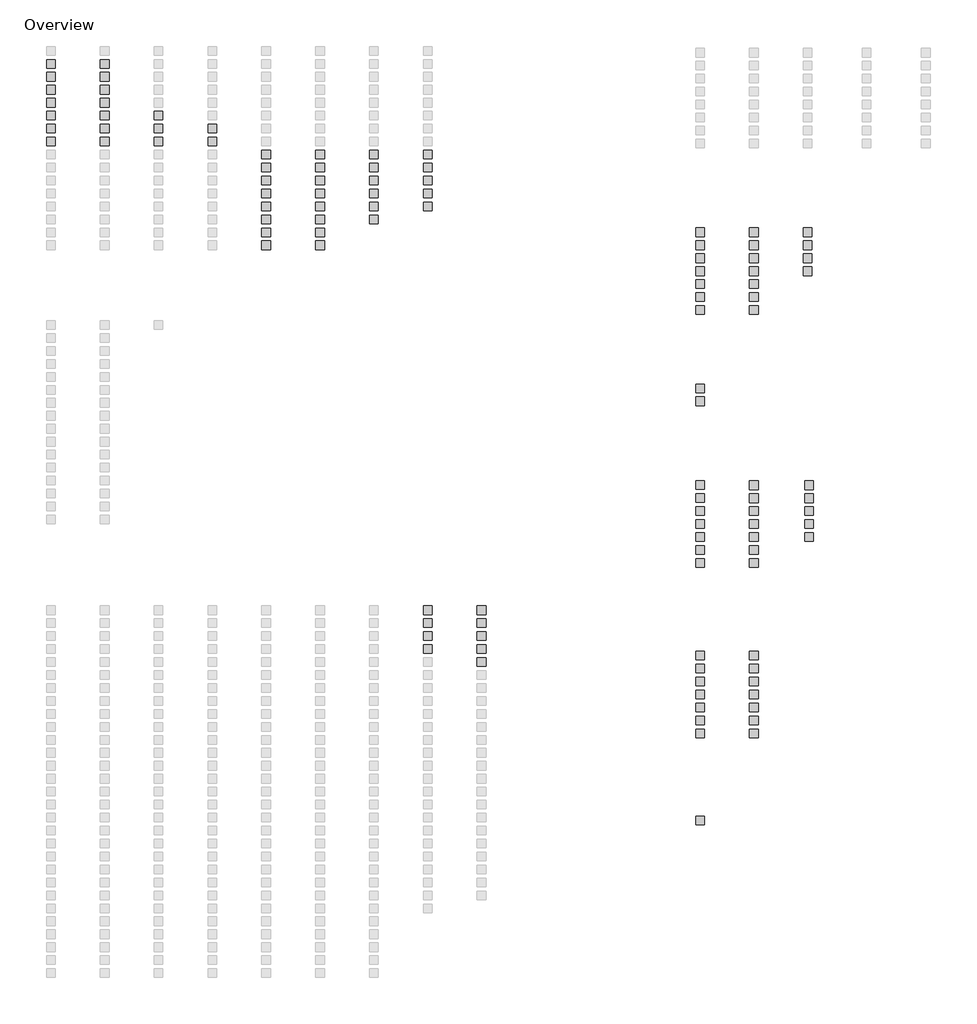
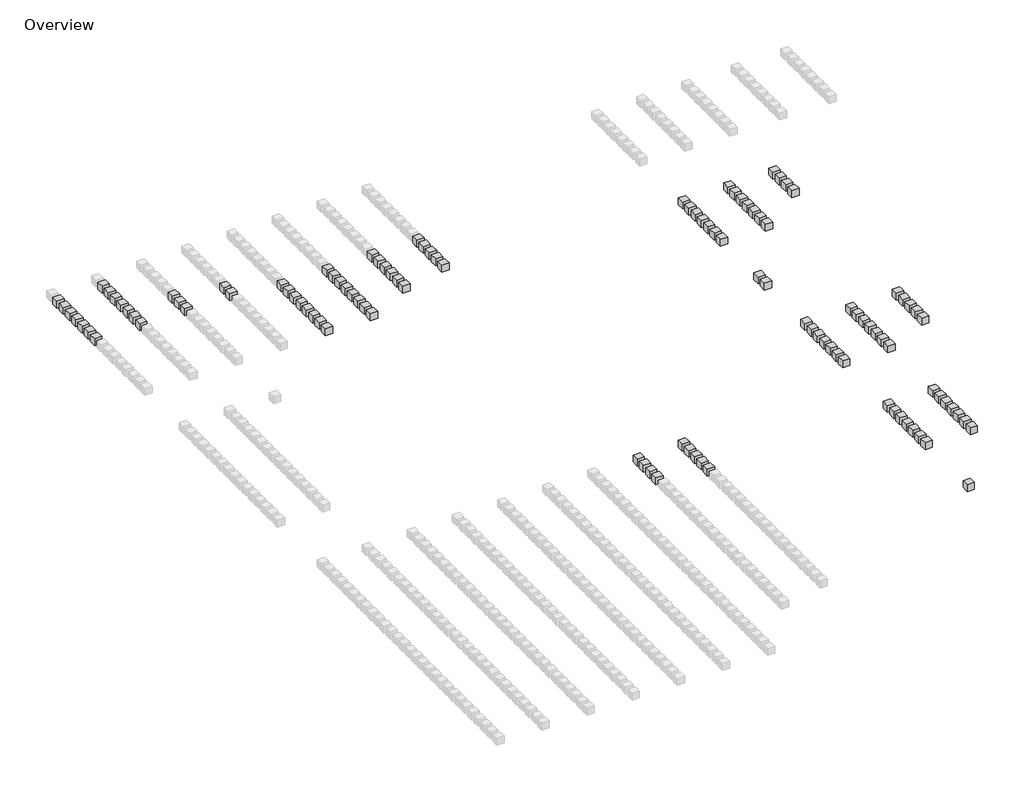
# One storey, part 4 of 5: 109 proxies.
"""IFC4 building model written with IfcOpenShell, lengths in millimetres."""

from ifc_helpers import new_model, si_unit, origin, place, context, project, spatial, transform, mapped, element, save
from components import material_box_material_box_61bd0c43

model = new_model("IFC4")

# Units and contexts
model_context = context("Model", 3, world=origin())
ifc_project = project(units=[si_unit("LENGTHUNIT", "METRE", prefix="MILLI")], contexts=[model_context])

# Site, building, storey
site = spatial("IfcSite", under=ifc_project)
building = spatial("IfcBuilding", under=site)
storey = spatial("IfcBuildingStorey", under=building, Name="Overview", Elevation=0.0)

# Proxies
placement = place(None, origin())
material_box_material_box_shape = material_box_material_box_61bd0c43(model_context)
element("IfcBuildingElementProxy", 1, Name="Material Box : Material Box", ObjectType="Material Box : Material Box", at=placement, inside=storey, context=model_context, shape_type="MappedRepresentation", body=[
    mapped(material_box_material_box_shape, transform((18647.4969971, -40200.0736223, 0.0), x_axis=(1.0, 0.0, 0.0), y_axis=(0.0, 1.0, 0.0), z_axis=(0.0, 0.0, 1.0))),
])
element("IfcBuildingElementProxy", 2, Name="Material Box : Material Box", ObjectType="Material Box : Material Box", at=placement, inside=storey, context=model_context, shape_type="MappedRepresentation", body=[
    mapped(material_box_material_box_shape, transform((18647.4969971, -41343.0736223, 0.0), x_axis=(1.0, 0.0, 0.0), y_axis=(0.0, 1.0, 0.0), z_axis=(0.0, 0.0, 1.0))),
])
element("IfcBuildingElementProxy", 3, Name="Material Box : Material Box", ObjectType="Material Box : Material Box", at=placement, inside=storey, context=model_context, shape_type="MappedRepresentation", body=[
    mapped(material_box_material_box_shape, transform((18647.4969971, -42486.0736223, 0.0), x_axis=(1.0, 0.0, 0.0), y_axis=(0.0, 1.0, 0.0), z_axis=(0.0, 0.0, 1.0))),
])
element("IfcBuildingElementProxy", 4, Name="Material Box : Material Box", ObjectType="Material Box : Material Box", at=placement, inside=storey, context=model_context, shape_type="MappedRepresentation", body=[
    mapped(material_box_material_box_shape, transform((18647.4969971, -43629.0736223, 0.0), x_axis=(1.0, 0.0, 0.0), y_axis=(0.0, 1.0, 0.0), z_axis=(0.0, 0.0, 1.0))),
])
element("IfcBuildingElementProxy", 5, Name="Material Box : Material Box", ObjectType="Material Box : Material Box", at=placement, inside=storey, context=model_context, shape_type="MappedRepresentation", body=[
    mapped(material_box_material_box_shape, transform((23397.2969971, -40200.0736223, 0.0), x_axis=(1.0, 0.0, 0.0), y_axis=(0.0, 1.0, 0.0), z_axis=(0.0, 0.0, 1.0))),
])
element("IfcBuildingElementProxy", 6, Name="Material Box : Material Box", ObjectType="Material Box : Material Box", at=placement, inside=storey, context=model_context, shape_type="MappedRepresentation", body=[
    mapped(material_box_material_box_shape, transform((23397.2969971, -41343.0736223, 0.0), x_axis=(1.0, 0.0, 0.0), y_axis=(0.0, 1.0, 0.0), z_axis=(0.0, 0.0, 1.0))),
])
element("IfcBuildingElementProxy", 7, Name="Material Box : Material Box", ObjectType="Material Box : Material Box", at=placement, inside=storey, context=model_context, shape_type="MappedRepresentation", body=[
    mapped(material_box_material_box_shape, transform((23397.2969971, -42486.0736223, 0.0), x_axis=(1.0, 0.0, 0.0), y_axis=(0.0, 1.0, 0.0), z_axis=(0.0, 0.0, 1.0))),
])
element("IfcBuildingElementProxy", 8, Name="Material Box : Material Box", ObjectType="Material Box : Material Box", at=placement, inside=storey, context=model_context, shape_type="MappedRepresentation", body=[
    mapped(material_box_material_box_shape, transform((23397.2969971, -43629.0736223, 0.0), x_axis=(1.0, 0.0, 0.0), y_axis=(0.0, 1.0, 0.0), z_axis=(0.0, 0.0, 1.0))),
])
element("IfcBuildingElementProxy", 9, Name="Material Box : Material Box", ObjectType="Material Box : Material Box", at=placement, inside=storey, context=model_context, shape_type="MappedRepresentation", body=[
    mapped(material_box_material_box_shape, transform((23397.2969971, -44772.0736223, 0.0), x_axis=(1.0, 0.0, 0.0), y_axis=(0.0, 1.0, 0.0), z_axis=(0.0, 0.0, 1.0))),
])
element("IfcBuildingElementProxy", 10, Name="Material Box : Material Box", ObjectType="Material Box : Material Box", at=placement, inside=storey, context=model_context, shape_type="MappedRepresentation", body=[
    mapped(material_box_material_box_shape, transform((42673.1200034, -6876.352486, 0.0), x_axis=(1.0, 0.0, 0.0), y_axis=(0.0, 1.0, 0.0), z_axis=(0.0, 0.0, 1.0))),
])
element("IfcBuildingElementProxy", 11, Name="Material Box : Material Box", ObjectType="Material Box : Material Box", at=placement, inside=storey, context=model_context, shape_type="MappedRepresentation", body=[
    mapped(material_box_material_box_shape, transform((42673.1200034, -8019.352486, 0.0), x_axis=(1.0, 0.0, 0.0), y_axis=(0.0, 1.0, 0.0), z_axis=(0.0, 0.0, 1.0))),
])
element("IfcBuildingElementProxy", 12, Name="Material Box : Material Box", ObjectType="Material Box : Material Box", at=placement, inside=storey, context=model_context, shape_type="MappedRepresentation", body=[
    mapped(material_box_material_box_shape, transform((42673.1200034, -9162.352486, 0.0), x_axis=(1.0, 0.0, 0.0), y_axis=(0.0, 1.0, 0.0), z_axis=(0.0, 0.0, 1.0))),
])
element("IfcBuildingElementProxy", 13, Name="Material Box : Material Box", ObjectType="Material Box : Material Box", at=placement, inside=storey, context=model_context, shape_type="MappedRepresentation", body=[
    mapped(material_box_material_box_shape, transform((42673.1200034, -10305.352486, 0.0), x_axis=(1.0, 0.0, 0.0), y_axis=(0.0, 1.0, 0.0), z_axis=(0.0, 0.0, 1.0))),
])
element("IfcBuildingElementProxy", 14, Name="Material Box : Material Box", ObjectType="Material Box : Material Box", at=placement, inside=storey, context=model_context, shape_type="MappedRepresentation", body=[
    mapped(material_box_material_box_shape, transform((42673.1200034, -12591.352486, 0.0), x_axis=(1.0, 0.0, 0.0), y_axis=(0.0, 1.0, 0.0), z_axis=(0.0, 0.0, 1.0))),
])
element("IfcBuildingElementProxy", 15, Name="Material Box : Material Box", ObjectType="Material Box : Material Box", at=placement, inside=storey, context=model_context, shape_type="MappedRepresentation", body=[
    mapped(material_box_material_box_shape, transform((42673.1200034, -13734.352486, 0.0), x_axis=(1.0, 0.0, 0.0), y_axis=(0.0, 1.0, 0.0), z_axis=(0.0, 0.0, 1.0))),
])
element("IfcBuildingElementProxy", 16, Name="Material Box : Material Box", ObjectType="Material Box : Material Box", at=placement, inside=storey, context=model_context, shape_type="MappedRepresentation", body=[
    mapped(material_box_material_box_shape, transform((47425.8828924, -6876.352486, 0.0), x_axis=(1.0, 0.0, 0.0), y_axis=(0.0, 1.0, 0.0), z_axis=(0.0, 0.0, 1.0))),
])
element("IfcBuildingElementProxy", 17, Name="Material Box : Material Box", ObjectType="Material Box : Material Box", at=placement, inside=storey, context=model_context, shape_type="MappedRepresentation", body=[
    mapped(material_box_material_box_shape, transform((47425.8828924, -8019.352486, 0.0), x_axis=(1.0, 0.0, 0.0), y_axis=(0.0, 1.0, 0.0), z_axis=(0.0, 0.0, 1.0))),
])
element("IfcBuildingElementProxy", 18, Name="Material Box : Material Box", ObjectType="Material Box : Material Box", at=placement, inside=storey, context=model_context, shape_type="MappedRepresentation", body=[
    mapped(material_box_material_box_shape, transform((47425.8828924, -10305.352486, 0.0), x_axis=(1.0, 0.0, 0.0), y_axis=(0.0, 1.0, 0.0), z_axis=(0.0, 0.0, 1.0))),
])
element("IfcBuildingElementProxy", 19, Name="Material Box : Material Box", ObjectType="Material Box : Material Box", at=placement, inside=storey, context=model_context, shape_type="MappedRepresentation", body=[
    mapped(material_box_material_box_shape, transform((47425.8828924, -11448.352486, 0.0), x_axis=(1.0, 0.0, 0.0), y_axis=(0.0, 1.0, 0.0), z_axis=(0.0, 0.0, 1.0))),
])
element("IfcBuildingElementProxy", 20, Name="Material Box : Material Box", ObjectType="Material Box : Material Box", at=placement, inside=storey, context=model_context, shape_type="MappedRepresentation", body=[
    mapped(material_box_material_box_shape, transform((47425.8828924, -12591.352486, 0.0), x_axis=(1.0, 0.0, 0.0), y_axis=(0.0, 1.0, 0.0), z_axis=(0.0, 0.0, 1.0))),
])
element("IfcBuildingElementProxy", 21, Name="Material Box : Material Box", ObjectType="Material Box : Material Box", at=placement, inside=storey, context=model_context, shape_type="MappedRepresentation", body=[
    mapped(material_box_material_box_shape, transform((47425.8828924, -13734.352486, 0.0), x_axis=(1.0, 0.0, 0.0), y_axis=(0.0, 1.0, 0.0), z_axis=(0.0, 0.0, 1.0))),
])
element("IfcBuildingElementProxy", 22, Name="Material Box : Material Box", ObjectType="Material Box : Material Box", at=placement, inside=storey, context=model_context, shape_type="MappedRepresentation", body=[
    mapped(material_box_material_box_shape, transform((42673.1200034, -11448.352486, 0.0), x_axis=(1.0, 0.0, 0.0), y_axis=(0.0, 1.0, 0.0), z_axis=(0.0, 0.0, 1.0))),
])
element("IfcBuildingElementProxy", 23, Name="Material Box : Material Box", ObjectType="Material Box : Material Box", at=placement, inside=storey, context=model_context, shape_type="MappedRepresentation", body=[
    mapped(material_box_material_box_shape, transform((47425.8828924, -9162.352486, 0.0), x_axis=(1.0, 0.0, 0.0), y_axis=(0.0, 1.0, 0.0), z_axis=(0.0, 0.0, 1.0))),
])
element("IfcBuildingElementProxy", 24, Name="Material Box : Material Box", ObjectType="Material Box : Material Box", at=placement, inside=storey, context=model_context, shape_type="MappedRepresentation", body=[
    mapped(material_box_material_box_shape, transform((42673.1200034, -20633.9300308, 0.0), x_axis=(1.0, 0.0, 0.0), y_axis=(0.0, 1.0, 0.0), z_axis=(0.0, 0.0, 1.0))),
])
element("IfcBuildingElementProxy", 25, Name="Material Box : Material Box", ObjectType="Material Box : Material Box", at=placement, inside=storey, context=model_context, shape_type="MappedRepresentation", body=[
    mapped(material_box_material_box_shape, transform((42673.1200034, -21776.9300308, 0.0), x_axis=(1.0, 0.0, 0.0), y_axis=(0.0, 1.0, 0.0), z_axis=(0.0, 0.0, 1.0))),
])
element("IfcBuildingElementProxy", 26, Name="Material Box : Material Box", ObjectType="Material Box : Material Box", at=placement, inside=storey, context=model_context, shape_type="MappedRepresentation", body=[
    mapped(material_box_material_box_shape, transform((42673.1200034, -29167.0854801, 0.0), x_axis=(1.0, 0.0, 0.0), y_axis=(0.0, 1.0, 0.0), z_axis=(0.0, 0.0, 1.0))),
])
element("IfcBuildingElementProxy", 27, Name="Material Box : Material Box", ObjectType="Material Box : Material Box", at=placement, inside=storey, context=model_context, shape_type="MappedRepresentation", body=[
    mapped(material_box_material_box_shape, transform((42673.1200034, -30310.0854801, 0.0), x_axis=(1.0, 0.0, 0.0), y_axis=(0.0, 1.0, 0.0), z_axis=(0.0, 0.0, 1.0))),
])
element("IfcBuildingElementProxy", 28, Name="Material Box : Material Box", ObjectType="Material Box : Material Box", at=placement, inside=storey, context=model_context, shape_type="MappedRepresentation", body=[
    mapped(material_box_material_box_shape, transform((42673.1200034, -31453.0854801, 0.0), x_axis=(1.0, 0.0, 0.0), y_axis=(0.0, 1.0, 0.0), z_axis=(0.0, 0.0, 1.0))),
])
element("IfcBuildingElementProxy", 29, Name="Material Box : Material Box", ObjectType="Material Box : Material Box", at=placement, inside=storey, context=model_context, shape_type="MappedRepresentation", body=[
    mapped(material_box_material_box_shape, transform((42673.1200034, -32596.0854801, 0.0), x_axis=(1.0, 0.0, 0.0), y_axis=(0.0, 1.0, 0.0), z_axis=(0.0, 0.0, 1.0))),
])
element("IfcBuildingElementProxy", 30, Name="Material Box : Material Box", ObjectType="Material Box : Material Box", at=placement, inside=storey, context=model_context, shape_type="MappedRepresentation", body=[
    mapped(material_box_material_box_shape, transform((42673.1200034, -34882.0854801, 0.0), x_axis=(1.0, 0.0, 0.0), y_axis=(0.0, 1.0, 0.0), z_axis=(0.0, 0.0, 1.0))),
])
element("IfcBuildingElementProxy", 31, Name="Material Box : Material Box", ObjectType="Material Box : Material Box", at=placement, inside=storey, context=model_context, shape_type="MappedRepresentation", body=[
    mapped(material_box_material_box_shape, transform((42673.1200034, -36025.0854801, 0.0), x_axis=(1.0, 0.0, 0.0), y_axis=(0.0, 1.0, 0.0), z_axis=(0.0, 0.0, 1.0))),
])
element("IfcBuildingElementProxy", 32, Name="Material Box : Material Box", ObjectType="Material Box : Material Box", at=placement, inside=storey, context=model_context, shape_type="MappedRepresentation", body=[
    mapped(material_box_material_box_shape, transform((47425.8828924, -29178.4041009, 0.0), x_axis=(1.0, 0.0, 0.0), y_axis=(0.0, 1.0, 0.0), z_axis=(0.0, 0.0, 1.0))),
])
element("IfcBuildingElementProxy", 33, Name="Material Box : Material Box", ObjectType="Material Box : Material Box", at=placement, inside=storey, context=model_context, shape_type="MappedRepresentation", body=[
    mapped(material_box_material_box_shape, transform((47425.8828924, -30321.4041009, 0.0), x_axis=(1.0, 0.0, 0.0), y_axis=(0.0, 1.0, 0.0), z_axis=(0.0, 0.0, 1.0))),
])
element("IfcBuildingElementProxy", 34, Name="Material Box : Material Box", ObjectType="Material Box : Material Box", at=placement, inside=storey, context=model_context, shape_type="MappedRepresentation", body=[
    mapped(material_box_material_box_shape, transform((47425.8828924, -32607.4041009, 0.0), x_axis=(1.0, 0.0, 0.0), y_axis=(0.0, 1.0, 0.0), z_axis=(0.0, 0.0, 1.0))),
])
element("IfcBuildingElementProxy", 35, Name="Material Box : Material Box", ObjectType="Material Box : Material Box", at=placement, inside=storey, context=model_context, shape_type="MappedRepresentation", body=[
    mapped(material_box_material_box_shape, transform((47425.8828924, -33750.4041009, 0.0), x_axis=(1.0, 0.0, 0.0), y_axis=(0.0, 1.0, 0.0), z_axis=(0.0, 0.0, 1.0))),
])
element("IfcBuildingElementProxy", 36, Name="Material Box : Material Box", ObjectType="Material Box : Material Box", at=placement, inside=storey, context=model_context, shape_type="MappedRepresentation", body=[
    mapped(material_box_material_box_shape, transform((47425.8828924, -49924.1260586, 0.0), x_axis=(1.0, 0.0, 0.0), y_axis=(0.0, 1.0, 0.0), z_axis=(0.0, 0.0, 1.0))),
])
element("IfcBuildingElementProxy", 37, Name="Material Box : Material Box", ObjectType="Material Box : Material Box", at=placement, inside=storey, context=model_context, shape_type="MappedRepresentation", body=[
    mapped(material_box_material_box_shape, transform((47425.8828924, -34893.4041009, 0.0), x_axis=(1.0, 0.0, 0.0), y_axis=(0.0, 1.0, 0.0), z_axis=(0.0, 0.0, 1.0))),
])
element("IfcBuildingElementProxy", 38, Name="Material Box : Material Box", ObjectType="Material Box : Material Box", at=placement, inside=storey, context=model_context, shape_type="MappedRepresentation", body=[
    mapped(material_box_material_box_shape, transform((47425.8828924, -51067.1260586, 0.0), x_axis=(1.0, 0.0, 0.0), y_axis=(0.0, 1.0, 0.0), z_axis=(0.0, 0.0, 1.0))),
])
element("IfcBuildingElementProxy", 39, Name="Material Box : Material Box", ObjectType="Material Box : Material Box", at=placement, inside=storey, context=model_context, shape_type="MappedRepresentation", body=[
    mapped(material_box_material_box_shape, transform((47425.8828924, -36036.4041009, 0.0), x_axis=(1.0, 0.0, 0.0), y_axis=(0.0, 1.0, 0.0), z_axis=(0.0, 0.0, 1.0))),
])
element("IfcBuildingElementProxy", 40, Name="Material Box : Material Box", ObjectType="Material Box : Material Box", at=placement, inside=storey, context=model_context, shape_type="MappedRepresentation", body=[
    mapped(material_box_material_box_shape, transform((42673.1200034, -51067.1260586, 0.0), x_axis=(1.0, 0.0, 0.0), y_axis=(0.0, 1.0, 0.0), z_axis=(0.0, 0.0, 1.0))),
])
element("IfcBuildingElementProxy", 41, Name="Material Box : Material Box", ObjectType="Material Box : Material Box", at=placement, inside=storey, context=model_context, shape_type="MappedRepresentation", body=[
    mapped(material_box_material_box_shape, transform((42673.1200034, -33739.0854801, 0.0), x_axis=(1.0, 0.0, 0.0), y_axis=(0.0, 1.0, 0.0), z_axis=(0.0, 0.0, 1.0))),
])
element("IfcBuildingElementProxy", 42, Name="Material Box : Material Box", ObjectType="Material Box : Material Box", at=placement, inside=storey, context=model_context, shape_type="MappedRepresentation", body=[
    mapped(material_box_material_box_shape, transform((47425.8828924, -31464.4041009, 0.0), x_axis=(1.0, 0.0, 0.0), y_axis=(0.0, 1.0, 0.0), z_axis=(0.0, 0.0, 1.0))),
])
element("IfcBuildingElementProxy", 43, Name="Material Box : Material Box", ObjectType="Material Box : Material Box", at=placement, inside=storey, context=model_context, shape_type="MappedRepresentation", body=[
    mapped(material_box_material_box_shape, transform((42673.1200034, -44209.1260586, 0.0), x_axis=(1.0, 0.0, 0.0), y_axis=(0.0, 1.0, 0.0), z_axis=(0.0, 0.0, 1.0))),
])
element("IfcBuildingElementProxy", 44, Name="Material Box : Material Box", ObjectType="Material Box : Material Box", at=placement, inside=storey, context=model_context, shape_type="MappedRepresentation", body=[
    mapped(material_box_material_box_shape, transform((42673.1200034, -45352.1260586, 0.0), x_axis=(1.0, 0.0, 0.0), y_axis=(0.0, 1.0, 0.0), z_axis=(0.0, 0.0, 1.0))),
])
element("IfcBuildingElementProxy", 45, Name="Material Box : Material Box", ObjectType="Material Box : Material Box", at=placement, inside=storey, context=model_context, shape_type="MappedRepresentation", body=[
    mapped(material_box_material_box_shape, transform((42673.1200034, -46495.1260586, 0.0), x_axis=(1.0, 0.0, 0.0), y_axis=(0.0, 1.0, 0.0), z_axis=(0.0, 0.0, 1.0))),
])
element("IfcBuildingElementProxy", 46, Name="Material Box : Material Box", ObjectType="Material Box : Material Box", at=placement, inside=storey, context=model_context, shape_type="MappedRepresentation", body=[
    mapped(material_box_material_box_shape, transform((42673.1200034, -47638.1260586, 0.0), x_axis=(1.0, 0.0, 0.0), y_axis=(0.0, 1.0, 0.0), z_axis=(0.0, 0.0, 1.0))),
])
element("IfcBuildingElementProxy", 47, Name="Material Box : Material Box", ObjectType="Material Box : Material Box", at=placement, inside=storey, context=model_context, shape_type="MappedRepresentation", body=[
    mapped(material_box_material_box_shape, transform((42673.1200034, -49924.1260586, 0.0), x_axis=(1.0, 0.0, 0.0), y_axis=(0.0, 1.0, 0.0), z_axis=(0.0, 0.0, 1.0))),
])
element("IfcBuildingElementProxy", 48, Name="Material Box : Material Box", ObjectType="Material Box : Material Box", at=placement, inside=storey, context=model_context, shape_type="MappedRepresentation", body=[
    mapped(material_box_material_box_shape, transform((47425.8828924, -44209.1260586, 0.0), x_axis=(1.0, 0.0, 0.0), y_axis=(0.0, 1.0, 0.0), z_axis=(0.0, 0.0, 1.0))),
])
element("IfcBuildingElementProxy", 49, Name="Material Box : Material Box", ObjectType="Material Box : Material Box", at=placement, inside=storey, context=model_context, shape_type="MappedRepresentation", body=[
    mapped(material_box_material_box_shape, transform((47425.8828924, -45352.1260586, 0.0), x_axis=(1.0, 0.0, 0.0), y_axis=(0.0, 1.0, 0.0), z_axis=(0.0, 0.0, 1.0))),
])
element("IfcBuildingElementProxy", 50, Name="Material Box : Material Box", ObjectType="Material Box : Material Box", at=placement, inside=storey, context=model_context, shape_type="MappedRepresentation", body=[
    mapped(material_box_material_box_shape, transform((47425.8828924, -46495.1260586, 0.0), x_axis=(1.0, 0.0, 0.0), y_axis=(0.0, 1.0, 0.0), z_axis=(0.0, 0.0, 1.0))),
])
element("IfcBuildingElementProxy", 51, Name="Material Box : Material Box", ObjectType="Material Box : Material Box", at=placement, inside=storey, context=model_context, shape_type="MappedRepresentation", body=[
    mapped(material_box_material_box_shape, transform((47425.8828924, -48781.1260586, 0.0), x_axis=(1.0, 0.0, 0.0), y_axis=(0.0, 1.0, 0.0), z_axis=(0.0, 0.0, 1.0))),
])
element("IfcBuildingElementProxy", 52, Name="Material Box : Material Box", ObjectType="Material Box : Material Box", at=placement, inside=storey, context=model_context, shape_type="MappedRepresentation", body=[
    mapped(material_box_material_box_shape, transform((42673.1200034, -48781.1260586, 0.0), x_axis=(1.0, 0.0, 0.0), y_axis=(0.0, 1.0, 0.0), z_axis=(0.0, 0.0, 1.0))),
])
element("IfcBuildingElementProxy", 53, Name="Material Box : Material Box", ObjectType="Material Box : Material Box", at=placement, inside=storey, context=model_context, shape_type="MappedRepresentation", body=[
    mapped(material_box_material_box_shape, transform((47425.8828924, -47638.1260586, 0.0), x_axis=(1.0, 0.0, 0.0), y_axis=(0.0, 1.0, 0.0), z_axis=(0.0, 0.0, 1.0))),
])
element("IfcBuildingElementProxy", 54, Name="Material Box : Material Box", ObjectType="Material Box : Material Box", at=placement, inside=storey, context=model_context, shape_type="MappedRepresentation", body=[
    mapped(material_box_material_box_shape, transform((-14601.1030029, 7981.2048122, 0.0), x_axis=(1.0, 0.0, 0.0), y_axis=(0.0, 1.0, 0.0), z_axis=(0.0, 0.0, 1.0))),
])
element("IfcBuildingElementProxy", 55, Name="Material Box : Material Box", ObjectType="Material Box : Material Box", at=placement, inside=storey, context=model_context, shape_type="MappedRepresentation", body=[
    mapped(material_box_material_box_shape, transform((-14601.1030029, 6838.2048122, 0.0), x_axis=(1.0, 0.0, 0.0), y_axis=(0.0, 1.0, 0.0), z_axis=(0.0, 0.0, 1.0))),
])
element("IfcBuildingElementProxy", 56, Name="Material Box : Material Box", ObjectType="Material Box : Material Box", at=placement, inside=storey, context=model_context, shape_type="MappedRepresentation", body=[
    mapped(material_box_material_box_shape, transform((-14601.1030029, 5695.2048122, 0.0), x_axis=(1.0, 0.0, 0.0), y_axis=(0.0, 1.0, 0.0), z_axis=(0.0, 0.0, 1.0))),
])
element("IfcBuildingElementProxy", 57, Name="Material Box : Material Box", ObjectType="Material Box : Material Box", at=placement, inside=storey, context=model_context, shape_type="MappedRepresentation", body=[
    mapped(material_box_material_box_shape, transform((-9851.3030029, 7981.2048122, 0.0), x_axis=(1.0, 0.0, 0.0), y_axis=(0.0, 1.0, 0.0), z_axis=(0.0, 0.0, 1.0))),
])
element("IfcBuildingElementProxy", 58, Name="Material Box : Material Box", ObjectType="Material Box : Material Box", at=placement, inside=storey, context=model_context, shape_type="MappedRepresentation", body=[
    mapped(material_box_material_box_shape, transform((-9851.3030029, 6838.2048122, 0.0), x_axis=(1.0, 0.0, 0.0), y_axis=(0.0, 1.0, 0.0), z_axis=(0.0, 0.0, 1.0))),
])
element("IfcBuildingElementProxy", 59, Name="Material Box : Material Box", ObjectType="Material Box : Material Box", at=placement, inside=storey, context=model_context, shape_type="MappedRepresentation", body=[
    mapped(material_box_material_box_shape, transform((-14601.1030029, 3409.2048122, 0.0), x_axis=(1.0, 0.0, 0.0), y_axis=(0.0, 1.0, 0.0), z_axis=(0.0, 0.0, 1.0))),
])
element("IfcBuildingElementProxy", 60, Name="Material Box : Material Box", ObjectType="Material Box : Material Box", at=placement, inside=storey, context=model_context, shape_type="MappedRepresentation", body=[
    mapped(material_box_material_box_shape, transform((-14601.1030029, 2266.2048122, 0.0), x_axis=(1.0, 0.0, 0.0), y_axis=(0.0, 1.0, 0.0), z_axis=(0.0, 0.0, 1.0))),
])
element("IfcBuildingElementProxy", 61, Name="Material Box : Material Box", ObjectType="Material Box : Material Box", at=placement, inside=storey, context=model_context, shape_type="MappedRepresentation", body=[
    mapped(material_box_material_box_shape, transform((-14601.1030029, 1123.2048122, 0.0), x_axis=(1.0, 0.0, 0.0), y_axis=(0.0, 1.0, 0.0), z_axis=(0.0, 0.0, 1.0))),
])
element("IfcBuildingElementProxy", 62, Name="Material Box : Material Box", ObjectType="Material Box : Material Box", at=placement, inside=storey, context=model_context, shape_type="MappedRepresentation", body=[
    mapped(material_box_material_box_shape, transform((-9851.3030029, 5695.2048122, 0.0), x_axis=(1.0, 0.0, 0.0), y_axis=(0.0, 1.0, 0.0), z_axis=(0.0, 0.0, 1.0))),
])
element("IfcBuildingElementProxy", 63, Name="Material Box : Material Box", ObjectType="Material Box : Material Box", at=placement, inside=storey, context=model_context, shape_type="MappedRepresentation", body=[
    mapped(material_box_material_box_shape, transform((-9851.3030029, 4552.2048122, 0.0), x_axis=(1.0, 0.0, 0.0), y_axis=(0.0, 1.0, 0.0), z_axis=(0.0, 0.0, 1.0))),
])
element("IfcBuildingElementProxy", 64, Name="Material Box : Material Box", ObjectType="Material Box : Material Box", at=placement, inside=storey, context=model_context, shape_type="MappedRepresentation", body=[
    mapped(material_box_material_box_shape, transform((-14601.1030029, 4552.2048122, 0.0), x_axis=(1.0, 0.0, 0.0), y_axis=(0.0, 1.0, 0.0), z_axis=(0.0, 0.0, 1.0))),
])
element("IfcBuildingElementProxy", 65, Name="Material Box : Material Box", ObjectType="Material Box : Material Box", at=placement, inside=storey, context=model_context, shape_type="MappedRepresentation", body=[
    mapped(material_box_material_box_shape, transform((-9851.3030029, 3409.2048122, 0.0), x_axis=(1.0, 0.0, 0.0), y_axis=(0.0, 1.0, 0.0), z_axis=(0.0, 0.0, 1.0))),
])
element("IfcBuildingElementProxy", 66, Name="Material Box : Material Box", ObjectType="Material Box : Material Box", at=placement, inside=storey, context=model_context, shape_type="MappedRepresentation", body=[
    mapped(material_box_material_box_shape, transform((-9851.3030029, 2266.2048122, 0.0), x_axis=(1.0, 0.0, 0.0), y_axis=(0.0, 1.0, 0.0), z_axis=(0.0, 0.0, 1.0))),
])
element("IfcBuildingElementProxy", 67, Name="Material Box : Material Box", ObjectType="Material Box : Material Box", at=placement, inside=storey, context=model_context, shape_type="MappedRepresentation", body=[
    mapped(material_box_material_box_shape, transform((-9851.3030029, 1123.2048122, 0.0), x_axis=(1.0, 0.0, 0.0), y_axis=(0.0, 1.0, 0.0), z_axis=(0.0, 0.0, 1.0))),
])
element("IfcBuildingElementProxy", 68, Name="Material Box : Material Box", ObjectType="Material Box : Material Box", at=placement, inside=storey, context=model_context, shape_type="MappedRepresentation", body=[
    mapped(material_box_material_box_shape, transform((-5101.5030029, 3409.2048122, 0.0), x_axis=(1.0, 0.0, 0.0), y_axis=(0.0, 1.0, 0.0), z_axis=(0.0, 0.0, 1.0))),
])
element("IfcBuildingElementProxy", 69, Name="Material Box : Material Box", ObjectType="Material Box : Material Box", at=placement, inside=storey, context=model_context, shape_type="MappedRepresentation", body=[
    mapped(material_box_material_box_shape, transform((-5101.5030029, 2266.2048122, 0.0), x_axis=(1.0, 0.0, 0.0), y_axis=(0.0, 1.0, 0.0), z_axis=(0.0, 0.0, 1.0))),
])
element("IfcBuildingElementProxy", 70, Name="Material Box : Material Box", ObjectType="Material Box : Material Box", at=placement, inside=storey, context=model_context, shape_type="MappedRepresentation", body=[
    mapped(material_box_material_box_shape, transform((-5101.5030029, 1123.2048122, 0.0), x_axis=(1.0, 0.0, 0.0), y_axis=(0.0, 1.0, 0.0), z_axis=(0.0, 0.0, 1.0))),
])
element("IfcBuildingElementProxy", 71, Name="Material Box : Material Box", ObjectType="Material Box : Material Box", at=placement, inside=storey, context=model_context, shape_type="MappedRepresentation", body=[
    mapped(material_box_material_box_shape, transform((-351.7030029, 2266.2048122, 0.0), x_axis=(1.0, 0.0, 0.0), y_axis=(0.0, 1.0, 0.0), z_axis=(0.0, 0.0, 1.0))),
])
element("IfcBuildingElementProxy", 72, Name="Material Box : Material Box", ObjectType="Material Box : Material Box", at=placement, inside=storey, context=model_context, shape_type="MappedRepresentation", body=[
    mapped(material_box_material_box_shape, transform((-351.7030029, 1123.2048122, 0.0), x_axis=(1.0, 0.0, 0.0), y_axis=(0.0, 1.0, 0.0), z_axis=(0.0, 0.0, 1.0))),
])
element("IfcBuildingElementProxy", 73, Name="Material Box : Material Box", ObjectType="Material Box : Material Box", at=placement, inside=storey, context=model_context, shape_type="MappedRepresentation", body=[
    mapped(material_box_material_box_shape, transform((4398.0969971, -19.7951878, 0.0), x_axis=(1.0, 0.0, 0.0), y_axis=(0.0, 1.0, 0.0), z_axis=(0.0, 0.0, 1.0))),
])
element("IfcBuildingElementProxy", 74, Name="Material Box : Material Box", ObjectType="Material Box : Material Box", at=placement, inside=storey, context=model_context, shape_type="MappedRepresentation", body=[
    mapped(material_box_material_box_shape, transform((4398.0969971, -1162.7951878, 0.0), x_axis=(1.0, 0.0, 0.0), y_axis=(0.0, 1.0, 0.0), z_axis=(0.0, 0.0, 1.0))),
])
element("IfcBuildingElementProxy", 75, Name="Material Box : Material Box", ObjectType="Material Box : Material Box", at=placement, inside=storey, context=model_context, shape_type="MappedRepresentation", body=[
    mapped(material_box_material_box_shape, transform((4398.0969971, -4591.7951878, 0.0), x_axis=(1.0, 0.0, 0.0), y_axis=(0.0, 1.0, 0.0), z_axis=(0.0, 0.0, 1.0))),
])
element("IfcBuildingElementProxy", 76, Name="Material Box : Material Box", ObjectType="Material Box : Material Box", at=placement, inside=storey, context=model_context, shape_type="MappedRepresentation", body=[
    mapped(material_box_material_box_shape, transform((4398.0969971, -5734.7951878, 0.0), x_axis=(1.0, 0.0, 0.0), y_axis=(0.0, 1.0, 0.0), z_axis=(0.0, 0.0, 1.0))),
])
element("IfcBuildingElementProxy", 77, Name="Material Box : Material Box", ObjectType="Material Box : Material Box", at=placement, inside=storey, context=model_context, shape_type="MappedRepresentation", body=[
    mapped(material_box_material_box_shape, transform((4398.0969971, -6877.7951878, 0.0), x_axis=(1.0, 0.0, 0.0), y_axis=(0.0, 1.0, 0.0), z_axis=(0.0, 0.0, 1.0))),
])
element("IfcBuildingElementProxy", 78, Name="Material Box : Material Box", ObjectType="Material Box : Material Box", at=placement, inside=storey, context=model_context, shape_type="MappedRepresentation", body=[
    mapped(material_box_material_box_shape, transform((4398.0969971, -8020.7951878, 0.0), x_axis=(1.0, 0.0, 0.0), y_axis=(0.0, 1.0, 0.0), z_axis=(0.0, 0.0, 1.0))),
])
element("IfcBuildingElementProxy", 79, Name="Material Box : Material Box", ObjectType="Material Box : Material Box", at=placement, inside=storey, context=model_context, shape_type="MappedRepresentation", body=[
    mapped(material_box_material_box_shape, transform((9147.8969971, -19.7951878, 0.0), x_axis=(1.0, 0.0, 0.0), y_axis=(0.0, 1.0, 0.0), z_axis=(0.0, 0.0, 1.0))),
])
element("IfcBuildingElementProxy", 80, Name="Material Box : Material Box", ObjectType="Material Box : Material Box", at=placement, inside=storey, context=model_context, shape_type="MappedRepresentation", body=[
    mapped(material_box_material_box_shape, transform((9147.8969971, -1162.7951878, 0.0), x_axis=(1.0, 0.0, 0.0), y_axis=(0.0, 1.0, 0.0), z_axis=(0.0, 0.0, 1.0))),
])
element("IfcBuildingElementProxy", 81, Name="Material Box : Material Box", ObjectType="Material Box : Material Box", at=placement, inside=storey, context=model_context, shape_type="MappedRepresentation", body=[
    mapped(material_box_material_box_shape, transform((4398.0969971, -2305.7951878, 0.0), x_axis=(1.0, 0.0, 0.0), y_axis=(0.0, 1.0, 0.0), z_axis=(0.0, 0.0, 1.0))),
])
element("IfcBuildingElementProxy", 82, Name="Material Box : Material Box", ObjectType="Material Box : Material Box", at=placement, inside=storey, context=model_context, shape_type="MappedRepresentation", body=[
    mapped(material_box_material_box_shape, transform((4398.0969971, -3448.7951878, 0.0), x_axis=(1.0, 0.0, 0.0), y_axis=(0.0, 1.0, 0.0), z_axis=(0.0, 0.0, 1.0))),
])
element("IfcBuildingElementProxy", 83, Name="Material Box : Material Box", ObjectType="Material Box : Material Box", at=placement, inside=storey, context=model_context, shape_type="MappedRepresentation", body=[
    mapped(material_box_material_box_shape, transform((9147.8969971, -2305.7951878, 0.0), x_axis=(1.0, 0.0, 0.0), y_axis=(0.0, 1.0, 0.0), z_axis=(0.0, 0.0, 1.0))),
])
element("IfcBuildingElementProxy", 84, Name="Material Box : Material Box", ObjectType="Material Box : Material Box", at=placement, inside=storey, context=model_context, shape_type="MappedRepresentation", body=[
    mapped(material_box_material_box_shape, transform((9147.8969971, -3448.7951878, 0.0), x_axis=(1.0, 0.0, 0.0), y_axis=(0.0, 1.0, 0.0), z_axis=(0.0, 0.0, 1.0))),
])
element("IfcBuildingElementProxy", 85, Name="Material Box : Material Box", ObjectType="Material Box : Material Box", at=placement, inside=storey, context=model_context, shape_type="MappedRepresentation", body=[
    mapped(material_box_material_box_shape, transform((9147.8969971, -4591.7951878, 0.0), x_axis=(1.0, 0.0, 0.0), y_axis=(0.0, 1.0, 0.0), z_axis=(0.0, 0.0, 1.0))),
])
element("IfcBuildingElementProxy", 86, Name="Material Box : Material Box", ObjectType="Material Box : Material Box", at=placement, inside=storey, context=model_context, shape_type="MappedRepresentation", body=[
    mapped(material_box_material_box_shape, transform((9147.8969971, -5734.7951878, 0.0), x_axis=(1.0, 0.0, 0.0), y_axis=(0.0, 1.0, 0.0), z_axis=(0.0, 0.0, 1.0))),
])
element("IfcBuildingElementProxy", 87, Name="Material Box : Material Box", ObjectType="Material Box : Material Box", at=placement, inside=storey, context=model_context, shape_type="MappedRepresentation", body=[
    mapped(material_box_material_box_shape, transform((9147.8969971, -6877.7951878, 0.0), x_axis=(1.0, 0.0, 0.0), y_axis=(0.0, 1.0, 0.0), z_axis=(0.0, 0.0, 1.0))),
])
element("IfcBuildingElementProxy", 88, Name="Material Box : Material Box", ObjectType="Material Box : Material Box", at=placement, inside=storey, context=model_context, shape_type="MappedRepresentation", body=[
    mapped(material_box_material_box_shape, transform((13897.6969971, -19.7951878, 0.0), x_axis=(1.0, 0.0, 0.0), y_axis=(0.0, 1.0, 0.0), z_axis=(0.0, 0.0, 1.0))),
])
element("IfcBuildingElementProxy", 89, Name="Material Box : Material Box", ObjectType="Material Box : Material Box", at=placement, inside=storey, context=model_context, shape_type="MappedRepresentation", body=[
    mapped(material_box_material_box_shape, transform((13897.6969971, -1162.7951878, 0.0), x_axis=(1.0, 0.0, 0.0), y_axis=(0.0, 1.0, 0.0), z_axis=(0.0, 0.0, 1.0))),
])
element("IfcBuildingElementProxy", 90, Name="Material Box : Material Box", ObjectType="Material Box : Material Box", at=placement, inside=storey, context=model_context, shape_type="MappedRepresentation", body=[
    mapped(material_box_material_box_shape, transform((13897.6969971, -2305.7951878, 0.0), x_axis=(1.0, 0.0, 0.0), y_axis=(0.0, 1.0, 0.0), z_axis=(0.0, 0.0, 1.0))),
])
element("IfcBuildingElementProxy", 91, Name="Material Box : Material Box", ObjectType="Material Box : Material Box", at=placement, inside=storey, context=model_context, shape_type="MappedRepresentation", body=[
    mapped(material_box_material_box_shape, transform((9147.8969971, -8020.7951878, 0.0), x_axis=(1.0, 0.0, 0.0), y_axis=(0.0, 1.0, 0.0), z_axis=(0.0, 0.0, 1.0))),
])
element("IfcBuildingElementProxy", 92, Name="Material Box : Material Box", ObjectType="Material Box : Material Box", at=placement, inside=storey, context=model_context, shape_type="MappedRepresentation", body=[
    mapped(material_box_material_box_shape, transform((13897.6969971, -3448.7951878, 0.0), x_axis=(1.0, 0.0, 0.0), y_axis=(0.0, 1.0, 0.0), z_axis=(0.0, 0.0, 1.0))),
])
element("IfcBuildingElementProxy", 93, Name="Material Box : Material Box", ObjectType="Material Box : Material Box", at=placement, inside=storey, context=model_context, shape_type="MappedRepresentation", body=[
    mapped(material_box_material_box_shape, transform((13897.6969971, -4591.7951878, 0.0), x_axis=(1.0, 0.0, 0.0), y_axis=(0.0, 1.0, 0.0), z_axis=(0.0, 0.0, 1.0))),
])
element("IfcBuildingElementProxy", 94, Name="Material Box : Material Box", ObjectType="Material Box : Material Box", at=placement, inside=storey, context=model_context, shape_type="MappedRepresentation", body=[
    mapped(material_box_material_box_shape, transform((13897.6969971, -5734.7951878, 0.0), x_axis=(1.0, 0.0, 0.0), y_axis=(0.0, 1.0, 0.0), z_axis=(0.0, 0.0, 1.0))),
])
element("IfcBuildingElementProxy", 95, Name="Material Box : Material Box", ObjectType="Material Box : Material Box", at=placement, inside=storey, context=model_context, shape_type="MappedRepresentation", body=[
    mapped(material_box_material_box_shape, transform((18647.4969971, -3448.7951878, 0.0), x_axis=(1.0, 0.0, 0.0), y_axis=(0.0, 1.0, 0.0), z_axis=(0.0, 0.0, 1.0))),
])
element("IfcBuildingElementProxy", 96, Name="Material Box : Material Box", ObjectType="Material Box : Material Box", at=placement, inside=storey, context=model_context, shape_type="MappedRepresentation", body=[
    mapped(material_box_material_box_shape, transform((18647.4969971, -4591.7951878, 0.0), x_axis=(1.0, 0.0, 0.0), y_axis=(0.0, 1.0, 0.0), z_axis=(0.0, 0.0, 1.0))),
])
element("IfcBuildingElementProxy", 97, Name="Material Box : Material Box", ObjectType="Material Box : Material Box", at=placement, inside=storey, context=model_context, shape_type="MappedRepresentation", body=[
    mapped(material_box_material_box_shape, transform((18647.4969971, -19.7951878, 0.0), x_axis=(1.0, 0.0, 0.0), y_axis=(0.0, 1.0, 0.0), z_axis=(0.0, 0.0, 1.0))),
])
element("IfcBuildingElementProxy", 98, Name="Material Box : Material Box", ObjectType="Material Box : Material Box", at=placement, inside=storey, context=model_context, shape_type="MappedRepresentation", body=[
    mapped(material_box_material_box_shape, transform((18647.4969971, -1162.7951878, 0.0), x_axis=(1.0, 0.0, 0.0), y_axis=(0.0, 1.0, 0.0), z_axis=(0.0, 0.0, 1.0))),
])
element("IfcBuildingElementProxy", 99, Name="Material Box : Material Box", ObjectType="Material Box : Material Box", at=placement, inside=storey, context=model_context, shape_type="MappedRepresentation", body=[
    mapped(material_box_material_box_shape, transform((18647.4969971, -2305.7951878, 0.0), x_axis=(1.0, 0.0, 0.0), y_axis=(0.0, 1.0, 0.0), z_axis=(0.0, 0.0, 1.0))),
])
element("IfcBuildingElementProxy", 100, Name="Material Box : Material Box", ObjectType="Material Box : Material Box", at=placement, inside=storey, context=model_context, shape_type="MappedRepresentation", body=[
    mapped(material_box_material_box_shape, transform((52302.6828924, -29178.4041009, 0.0), x_axis=(1.0, 0.0, 0.0), y_axis=(0.0, 1.0, 0.0), z_axis=(0.0, 0.0, 1.0))),
])
element("IfcBuildingElementProxy", 101, Name="Material Box : Material Box", ObjectType="Material Box : Material Box", at=placement, inside=storey, context=model_context, shape_type="MappedRepresentation", body=[
    mapped(material_box_material_box_shape, transform((52302.6828924, -30321.4041009, 0.0), x_axis=(1.0, 0.0, 0.0), y_axis=(0.0, 1.0, 0.0), z_axis=(0.0, 0.0, 1.0))),
])
element("IfcBuildingElementProxy", 102, Name="Material Box : Material Box", ObjectType="Material Box : Material Box", at=placement, inside=storey, context=model_context, shape_type="MappedRepresentation", body=[
    mapped(material_box_material_box_shape, transform((52302.6828924, -31464.4041009, 0.0), x_axis=(1.0, 0.0, 0.0), y_axis=(0.0, 1.0, 0.0), z_axis=(0.0, 0.0, 1.0))),
])
element("IfcBuildingElementProxy", 103, Name="Material Box : Material Box", ObjectType="Material Box : Material Box", at=placement, inside=storey, context=model_context, shape_type="MappedRepresentation", body=[
    mapped(material_box_material_box_shape, transform((52302.6828924, -32607.4041009, 0.0), x_axis=(1.0, 0.0, 0.0), y_axis=(0.0, 1.0, 0.0), z_axis=(0.0, 0.0, 1.0))),
])
element("IfcBuildingElementProxy", 104, Name="Material Box : Material Box", ObjectType="Material Box : Material Box", at=placement, inside=storey, context=model_context, shape_type="MappedRepresentation", body=[
    mapped(material_box_material_box_shape, transform((52302.6828924, -33750.4041009, 0.0), x_axis=(1.0, 0.0, 0.0), y_axis=(0.0, 1.0, 0.0), z_axis=(0.0, 0.0, 1.0))),
])
element("IfcBuildingElementProxy", 105, Name="Material Box : Material Box", ObjectType="Material Box : Material Box", at=placement, inside=storey, context=model_context, shape_type="MappedRepresentation", body=[
    mapped(material_box_material_box_shape, transform((52178.6457815, -6876.352486, 0.0), x_axis=(1.0, 0.0, 0.0), y_axis=(0.0, 1.0, 0.0), z_axis=(0.0, 0.0, 1.0))),
])
element("IfcBuildingElementProxy", 106, Name="Material Box : Material Box", ObjectType="Material Box : Material Box", at=placement, inside=storey, context=model_context, shape_type="MappedRepresentation", body=[
    mapped(material_box_material_box_shape, transform((52178.6457815, -8019.352486, 0.0), x_axis=(1.0, 0.0, 0.0), y_axis=(0.0, 1.0, 0.0), z_axis=(0.0, 0.0, 1.0))),
])
element("IfcBuildingElementProxy", 107, Name="Material Box : Material Box", ObjectType="Material Box : Material Box", at=placement, inside=storey, context=model_context, shape_type="MappedRepresentation", body=[
    mapped(material_box_material_box_shape, transform((52178.6457815, -9162.352486, 0.0), x_axis=(1.0, 0.0, 0.0), y_axis=(0.0, 1.0, 0.0), z_axis=(0.0, 0.0, 1.0))),
])
element("IfcBuildingElementProxy", 108, Name="Material Box : Material Box", ObjectType="Material Box : Material Box", at=placement, inside=storey, context=model_context, shape_type="MappedRepresentation", body=[
    mapped(material_box_material_box_shape, transform((52178.6457815, -10305.352486, 0.0), x_axis=(1.0, 0.0, 0.0), y_axis=(0.0, 1.0, 0.0), z_axis=(0.0, 0.0, 1.0))),
])
element("IfcBuildingElementProxy", 109, Name="Material Box : Material Box", ObjectType="Material Box : Material Box", at=placement, inside=storey, context=model_context, shape_type="MappedRepresentation", body=[
    mapped(material_box_material_box_shape, transform((42673.1200034, -58746.4805121, 0.0), x_axis=(1.0, 0.0, 0.0), y_axis=(0.0, 1.0, 0.0), z_axis=(0.0, 0.0, 1.0))),
])

save(model, "model.ifc")
